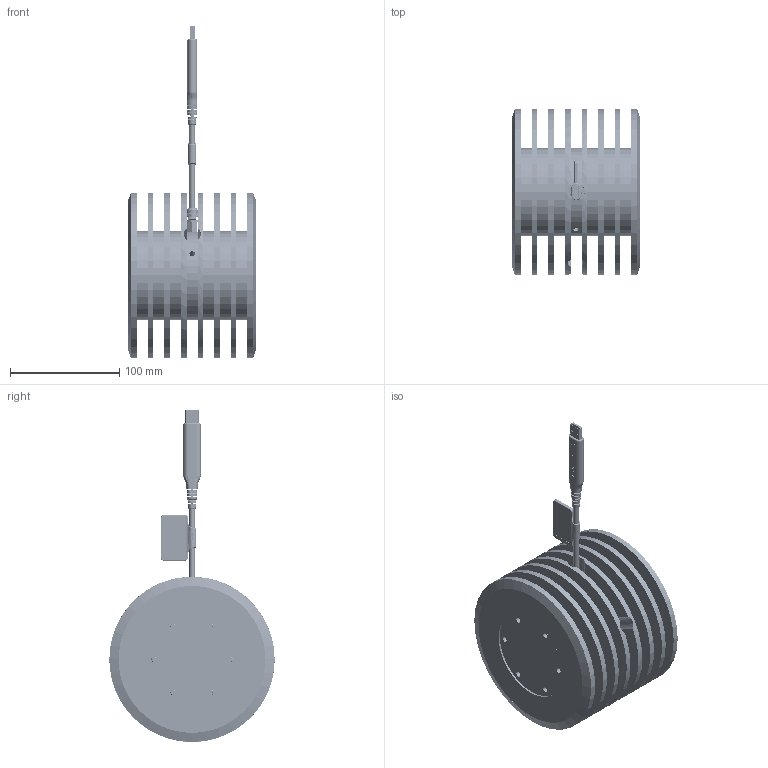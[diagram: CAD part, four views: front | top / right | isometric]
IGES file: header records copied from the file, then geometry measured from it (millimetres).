
Start section: SolidWorks IGES file using analytic representation for surfaces
Global section: file name: N:\POR\Public\PLMProductInfo\1223336 PowerMax USB - PM150-50\1223336.IGS; native system: SolidWorks 2012; preprocessor: SolidWorks 2012; author: lewisd; date: 130603.110430; units: inch
Bounding box: 117.75 x 151.13 x 303.68 mm (x, y, z)
Surface area: 317654.9 mm2 (no closed solid volume)
Topology: 0 solids, 0 shells, 2253 faces, 37589 edges, 37575 vertices
Faces by surface type: revolution 1441, bspline 812
